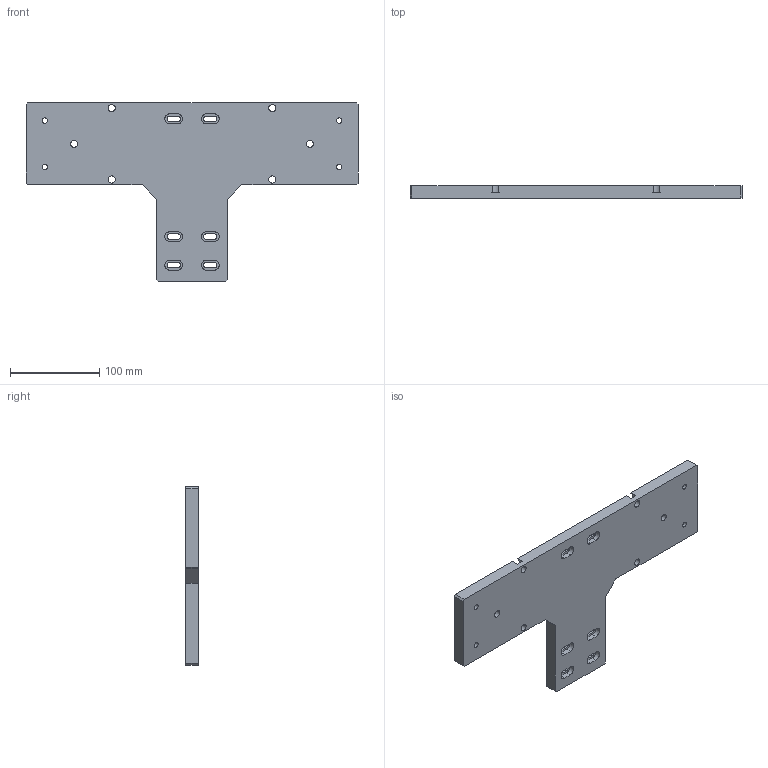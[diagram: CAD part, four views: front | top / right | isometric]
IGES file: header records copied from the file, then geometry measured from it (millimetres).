
Start section:  PTC IGES file: n80-n100m-st.igs
Global section: file name: n80-n100m-st.igs; native system: Pro/ENGINEER by Parametric Technology Corporation; preprocessor: 2008230; author: Owner; organization: Unknown; date: 20121212.093103; units: millimetre
Bounding box: 372 x 14 x 200 mm (x, y, z)
Surface area: 107690.6 mm2 (no closed solid volume)
Topology: 0 solids, 0 shells, 118 faces, 624 edges, 624 vertices
Faces by surface type: revolution 60, bspline 58
